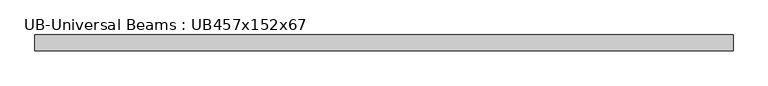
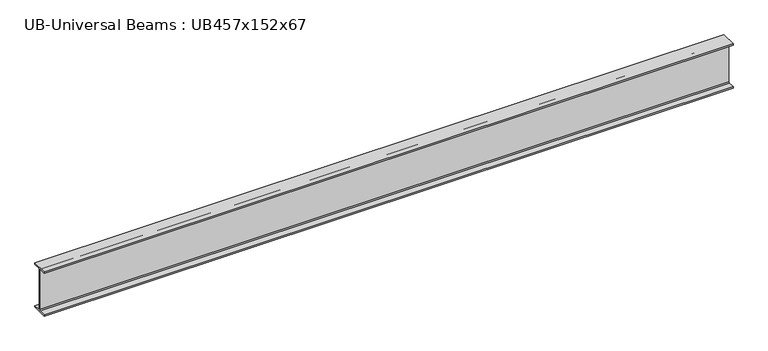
"""IFC4 building model written with IfcOpenShell, lengths in millimetres: beam geometry, UB-Universal Beams : UB457x152x67."""

from ifc_helpers import new_model, si_unit, point, frame, frame_2d, origin, place, context, project, spatial, polyline, circle_curve, trimmed, segment, composite_curve, outline, extrude, source, transform, mapped, element, save


def ub_universal_beams_ub457x152x67_f4163d89(model_context):
    return source(origin(), model_context, "Body", "SweptSolid", [
        extrude(outline(composite_curve([segment(polyline([(76.9, -214.0), (76.9, -229.0), (-76.9, -229.0), (-76.9, -214.0), (-14.7, -214.0)]), True, "CONTINUOUS"), segment(trimmed(circle_curve(frame_2d((-14.7, -203.8)), 10.2), [point((-14.7, -214.0))], [point((-4.5, -203.8))], True, "CARTESIAN"), True, "CONTINUOUS"), segment(polyline([(-4.5, -203.8), (-4.5, 203.8)]), True, "CONTINUOUS"), segment(trimmed(circle_curve(frame_2d((-14.7, 203.8)), 10.2), [point((-4.5, 203.8))], [point((-14.7, 214.0))], True, "CARTESIAN"), True, "CONTINUOUS"), segment(polyline([(-14.7, 214.0), (-76.9, 214.0), (-76.9, 229.0), (76.9, 229.0), (76.9, 214.0), (14.7, 214.0)]), True, "CONTINUOUS"), segment(trimmed(circle_curve(frame_2d((14.7, 203.8)), 10.2), [point((14.7, 214.0))], [point((4.5, 203.8))], True, "CARTESIAN"), True, "CONTINUOUS"), segment(polyline([(4.5, 203.8), (4.5, -203.8)]), True, "CONTINUOUS"), segment(trimmed(circle_curve(frame_2d((14.7, -203.8)), 10.2), [point((4.5, -203.8))], [point((14.7, -214.0))], True, "CARTESIAN"), True, "CONTINUOUS"), segment(polyline([(14.7, -214.0), (76.9, -214.0)]), True, "CONTINUOUS")], self_intersect=False)), frame((-3362.9, 0.0, 0.0), z_axis=(1.0, 0.0, 0.0), x_axis=(0.0, 1.0, 0.0)), (0.0, 0.0, 1.0), 6725.8),
    ])


if __name__ == "__main__":
    model = new_model("IFC4")
    model_context = context("Model", 3, world=origin())
    ifc_project = project(units=[si_unit("LENGTHUNIT", "METRE", prefix="MILLI")], contexts=[model_context])
    site = spatial("IfcSite", under=ifc_project)
    building = spatial("IfcBuilding", under=site)
    placement = place(None, origin())
    ub_universal_beams_ub457x152x67_shape = ub_universal_beams_ub457x152x67_f4163d89(model_context)
    element("IfcBeam", 1, ObjectType="UB-Universal Beams : UB457x152x67", at=placement, inside=building, context=model_context, shape_type="MappedRepresentation", body=[
        mapped(ub_universal_beams_ub457x152x67_shape, transform((0.0, 0.0, 0.0), x_axis=(1.0, 0.0, 0.0), y_axis=(0.0, 1.0, 0.0), z_axis=(0.0, 0.0, 1.0))),
    ])
    save(model, "model.ifc")
